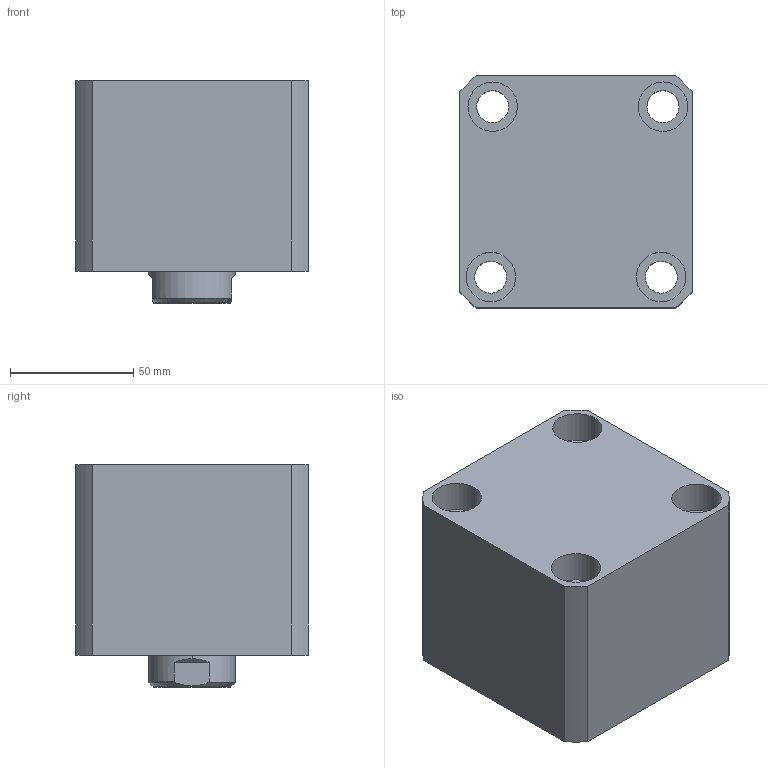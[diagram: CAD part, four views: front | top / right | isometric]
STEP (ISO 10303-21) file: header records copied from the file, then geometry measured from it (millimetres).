
FILE_DESCRIPTION (( 'STEP AP214' ), '1' );
FILE_NAME ('chtb-sdma63x10n_asm.STEP', '2018-05-16T02:19:53', ( 'Windows' ), ( 'Microsoft' ), 'SwSTEP 2.0', 'SolidWorks 2015', '' );
FILE_SCHEMA (( 'AUTOMOTIVE_DESIGN' ));
Length unit declared in the file: millimetre
Products named in the file (4): CHTB-SDMA63X10NBT; CHTB63X10NHSG; CHTB-63QG; chtb-sdma63x10n_asm
Assembly tree (3 placements, depth 2):
  chtb-sdma63x10n_asm
    CHTB-63QG
    CHTB63X10NHSG
    CHTB-SDMA63X10NBT
Bounding box: 94 x 94 x 90 mm (x, y, z)
Volume: 593553.3 mm3; surface area: 111693.7 mm2
Topology: 3 solids, 3 shells, 165 faces, 472 edges, 321 vertices
Faces by surface type: cylinder 107, plane 31, bspline 12, cone 8, torus 7
Entity records: 17727 total; most frequent: CARTESIAN_POINT 13576, ORIENTED_EDGE 932, DIRECTION 716, EDGE_CURVE 466, VERTEX_POINT 321, AXIS2_PLACEMENT_3D 288, EDGE_LOOP 197, ADVANCED_FACE 165
